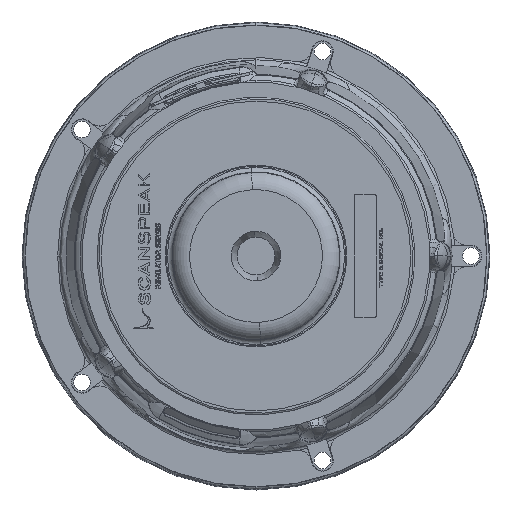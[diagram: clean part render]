
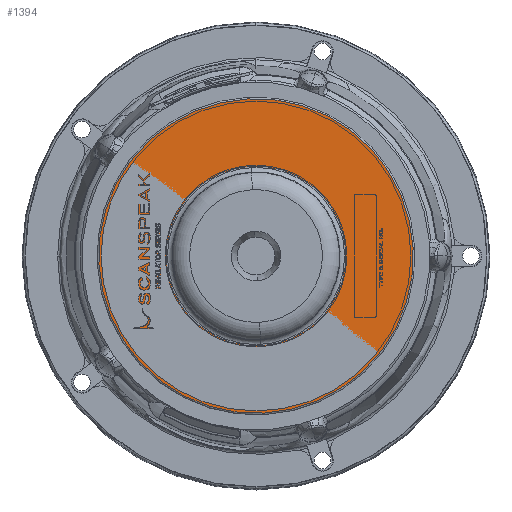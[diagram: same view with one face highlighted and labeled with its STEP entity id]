
A CAD part, front view. The second image highlights one B-rep face of the part: STEP entity #1394.
In plain terms, the highlighted planar face has unit normal (0, -1, 0).
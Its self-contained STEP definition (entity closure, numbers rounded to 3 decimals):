
#1394 = ADVANCED_FACE ( 'NONE', ( #60410, #103850 ), #40755, .T. ) ;
#1482 = CARTESIAN_POINT ( 'NONE',  ( -1.535, -42.401, 28.384 ) ) ;
#6395 = CIRCLE ( 'NONE', #30274, 49.75 ) ;
#6608 = EDGE_CURVE ( 'NONE', #75297, #113291, #104810, .T. ) ;
#8240 = DIRECTION ( 'NONE',  ( 0.054, 0., -0.999 ) ) ;
#11458 = CARTESIAN_POINT ( 'NONE',  ( 2.686, -42.401, -49.677 ) ) ;
#16945 = EDGE_LOOP ( 'NONE', ( #107756, #100968 ) ) ;
#19661 = VERTEX_POINT ( 'NONE', #11458 ) ;
#19727 = DIRECTION ( 'NONE',  ( 0., -1., 0. ) ) ;
#21967 = DIRECTION ( 'NONE',  ( 0.054, 0., -0.999 ) ) ;
#25656 = EDGE_CURVE ( 'NONE', #113291, #75297, #84691, .T. ) ;
#30274 = AXIS2_PLACEMENT_3D ( 'NONE', #100345, #37890, #102349 ) ;
#37890 = DIRECTION ( 'NONE',  ( 0., -1., 0. ) ) ;
#40755 = PLANE ( 'NONE',  #61309 ) ;
#48693 = EDGE_LOOP ( 'NONE', ( #90582, #85378 ) ) ;
#48992 = CARTESIAN_POINT ( 'NONE',  ( 0., -42.401, 0. ) ) ;
#56890 = AXIS2_PLACEMENT_3D ( 'NONE', #85647, #124324, #21967 ) ;
#60410 = FACE_OUTER_BOUND ( 'NONE', #48693, .T. ) ;
#61102 = DIRECTION ( 'NONE',  ( 0.054, 0., -0.999 ) ) ;
#61309 = AXIS2_PLACEMENT_3D ( 'NONE', #124120, #72589, #83423 ) ;
#61767 = CARTESIAN_POINT ( 'NONE',  ( 0., -42.401, 0. ) ) ;
#72589 = DIRECTION ( 'NONE',  ( 0., -1., 0. ) ) ;
#75297 = VERTEX_POINT ( 'NONE', #1482 ) ;
#83423 = DIRECTION ( 'NONE',  ( 0.054, 0., -0.999 ) ) ;
#84691 = CIRCLE ( 'NONE', #106437, 28.425 ) ;
#85378 = ORIENTED_EDGE ( 'NONE', *, *, #119665, .T. ) ;
#85647 = CARTESIAN_POINT ( 'NONE',  ( 0., -42.401, 0. ) ) ;
#90582 = ORIENTED_EDGE ( 'NONE', *, *, #94634, .T. ) ;
#94634 = EDGE_CURVE ( 'NONE', #19661, #129931, #115367, .T. ) ;
#96112 = AXIS2_PLACEMENT_3D ( 'NONE', #61767, #19727, #61102 ) ;
#100345 = CARTESIAN_POINT ( 'NONE',  ( 0., -42.401, 0. ) ) ;
#100968 = ORIENTED_EDGE ( 'NONE', *, *, #6608, .F. ) ;
#102349 = DIRECTION ( 'NONE',  ( 0.054, 0., -0.999 ) ) ;
#103850 = FACE_BOUND ( 'NONE', #16945, .T. ) ;
#104810 = CIRCLE ( 'NONE', #96112, 28.425 ) ;
#106437 = AXIS2_PLACEMENT_3D ( 'NONE', #48992, #122859, #8240 ) ;
#107756 = ORIENTED_EDGE ( 'NONE', *, *, #25656, .F. ) ;
#112315 = CARTESIAN_POINT ( 'NONE',  ( 1.535, -42.401, -28.384 ) ) ;
#113291 = VERTEX_POINT ( 'NONE', #112315 ) ;
#115367 = CIRCLE ( 'NONE', #56890, 49.75 ) ;
#119665 = EDGE_CURVE ( 'NONE', #129931, #19661, #6395, .T. ) ;
#122859 = DIRECTION ( 'NONE',  ( 0., -1., 0. ) ) ;
#124120 = CARTESIAN_POINT ( 'NONE',  ( 28.384, -42.401, 1.535 ) ) ;
#124324 = DIRECTION ( 'NONE',  ( 0., -1., 0. ) ) ;
#127622 = CARTESIAN_POINT ( 'NONE',  ( -2.686, -42.401, 49.677 ) ) ;
#129931 = VERTEX_POINT ( 'NONE', #127622 ) ;
